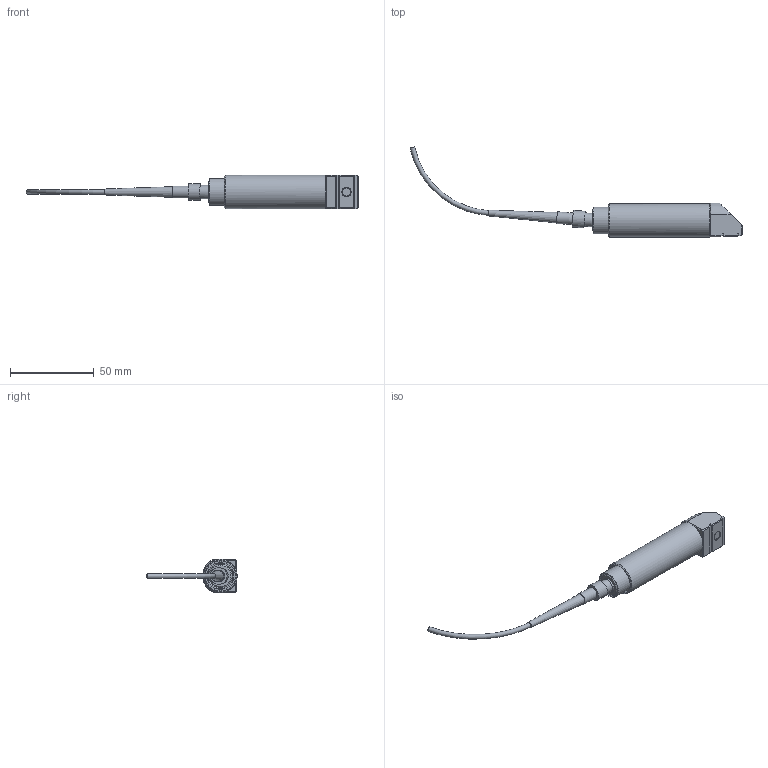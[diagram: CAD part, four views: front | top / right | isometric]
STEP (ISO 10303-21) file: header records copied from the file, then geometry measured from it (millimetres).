
FILE_DESCRIPTION (( 'STEP AP203' ), '1' );
FILE_NAME ('2602029.001 IFS2406_90-2,5_VAC(001) vereinfacht.STEP', '2017-02-08T10:23:34', ( '' ), ( '' ), 'SwSTEP 2.0', 'SolidWorks 2016', '' );
FILE_SCHEMA (( 'CONFIG_CONTROL_DESIGN' ));
Length unit declared in the file: millimetre
Products named in the file (1): 2602029.001  IFS2406_90-2,5_VAC(001) vereinfacht
Bounding box: 198.24 x 53.94 x 20 mm (x, y, z)
Volume: 28550.8 mm3; surface area: 8710.1 mm2
Topology: 2 solids, 2 shells, 94 faces, 191 edges, 118 vertices
Faces by surface type: plane 65, cylinder 17, cone 10, torus 1, sphere 1
Full cylindrical faces by diameter (mm): 0.05 x1, 2.5 x2, 4 x1, 5 x1, 6 x2, 7 x1, 7.5 x1, 8 x1, 9.5 x1, 10 x1, 16 x1, 18 x1, 20 x1
Entity records: 2418 total; most frequent: CARTESIAN_POINT 470, DIRECTION 395, ORIENTED_EDGE 326, EDGE_CURVE 163, AXIS2_PLACEMENT_3D 146, EDGE_LOOP 135, VERTEX_POINT 114, FACE_OUTER_BOUND 111
